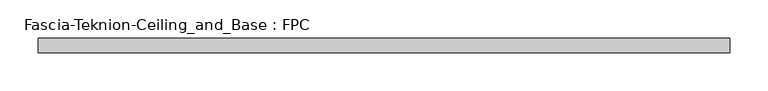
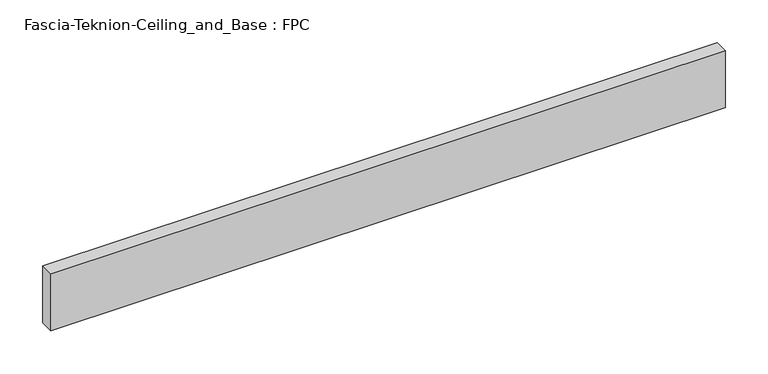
"""IFC4 building model written with IfcOpenShell, lengths in millimetres: proxy geometry, Fascia-Teknion-Ceiling_and_Base : FPC."""

from ifc_helpers import new_model, si_unit, origin, origin_with_axes, place, context, project, spatial, polyline, outline, extrude, source, transform, mapped, element, save


def fascia_teknion_ceiling_and_base_fpc_957b990b(model_context):
    return source(origin(), model_context, "Body", "SweptSolid", [
        extrude(outline(polyline([(454.6203125, 0.0), (454.6203125, -19.05), (-454.6203125, -19.05), (-454.6203125, 0.0), (454.6203125, 0.0)])), origin_with_axes(), (0.0, 0.0, 1.0), 81.28),
    ])


if __name__ == "__main__":
    model = new_model("IFC4")
    model_context = context("Model", 3, world=origin())
    ifc_project = project(units=[si_unit("LENGTHUNIT", "METRE", prefix="MILLI")], contexts=[model_context])
    site = spatial("IfcSite", under=ifc_project)
    building = spatial("IfcBuilding", under=site)
    placement = place(None, origin())
    fascia_teknion_ceiling_and_base_fpc_shape = fascia_teknion_ceiling_and_base_fpc_957b990b(model_context)
    element("IfcBuildingElementProxy", 1, Name="Fascia-Teknion-Ceiling_and_Base : FPC", ObjectType="Fascia-Teknion-Ceiling_and_Base : FPC", at=placement, inside=building, context=model_context, shape_type="MappedRepresentation", body=[
        mapped(fascia_teknion_ceiling_and_base_fpc_shape, transform((0.0, 0.0, 0.0), x_axis=(1.0, 0.0, 0.0), y_axis=(0.0, 1.0, 0.0), z_axis=(0.0, 0.0, 1.0))),
    ])
    save(model, "model.ifc")
